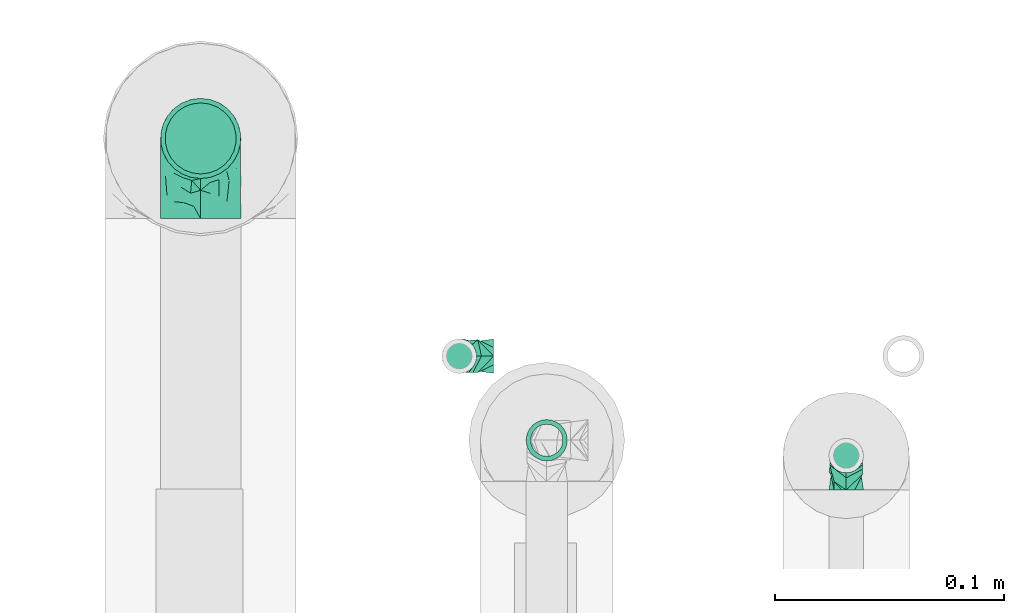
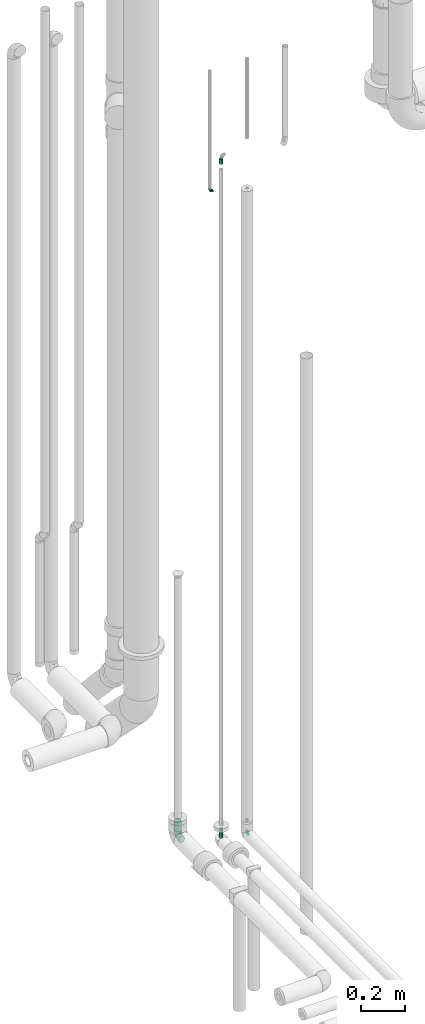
# One storey, part 41 of 78: 4 flow fittings, 3 flow segments.
"""IFC2X3 building model written with IfcOpenShell, lengths in millimetres."""

import ifcopenshell
import ifcopenshell.guid

model = None  # the IFC model being written
_history = None  # IfcOwnerHistory: only IFC2X3 demands one
_inside = {}  # id of a spatial element -> (the spatial element, [elements in it])
_under = {}  # id of a project, library or spatial element -> (it, [spatial elements below it])
_declared = {}  # id of a project -> (the project, [libraries it declares])
_typed = {}  # id of a type object -> (the type object, [elements of that type])
_made_of = {}  # id of a material, layer set ... -> (it, [elements and type objects made of it])


def new_model(schema):
    """Start an empty IFC model of exactly this schema.

    Asked for "IFC4X3", IfcOpenShell would pick the latest addendum, in which some entities
    have other attributes; the version numbers below select the first issue.
    IFC2X3 requires an IfcOwnerHistory on every rooted entity: one is made here for all.
    """
    global model, _history
    if schema == "IFC4X3":
        model = ifcopenshell.file(schema_version=(4, 3, 0, 0))
    else:
        model = ifcopenshell.file(schema=schema)
    _inside.clear()
    _under.clear()
    _declared.clear()
    _typed.clear()
    _made_of.clear()
    _history = None
    if model.schema == "IFC2X3":
        org = make("IfcOrganization", Name="unknown")
        user = make(
            "IfcPersonAndOrganization",
            ThePerson=make("IfcPerson", FamilyName="unknown"),
            TheOrganization=org,
        )
        app = make(
            "IfcApplication",
            ApplicationDeveloper=org,
            Version="unknown",
            ApplicationFullName="unknown",
            ApplicationIdentifier="unknown",
        )
        _history = make(
            "IfcOwnerHistory",
            OwningUser=user,
            OwningApplication=app,
            ChangeAction="ADDED",
            CreationDate=0,
        )
    return model


def make(cls, **values):
    """One entity of the class cls with the attributes given. An attribute that is None is left unset."""
    return model.create_entity(
        cls, **{name: value for name, value in values.items() if value is not None}
    )


def entity(cls, *values):
    """Any entity or typed value of the class cls, its attributes in the order of the schema. None: left unset."""
    e = model.create_entity(cls)
    for i, value in enumerate(values):
        if value is not None:
            e[i] = value
    return e


def rooted(cls, **values):
    """An entity with a GlobalId (a new one), such as an element, a storey or a relation."""
    return make(cls, GlobalId=ifcopenshell.guid.new(), OwnerHistory=_history, **values)


def si_unit(unit_type, name, prefix=None):
    """IfcSIUnit, for example si_unit("LENGTHUNIT", "METRE", prefix="MILLI")."""
    return make("IfcSIUnit", UnitType=unit_type, Prefix=prefix, Name=name)


def converted_unit(unit_type, name, factor, base, dimensions=None, offset=None):
    """IfcConversionBasedUnit, such as the inch: factor (a typed value) times the base unit."""
    return make(
        "IfcConversionBasedUnit"
        if offset is None
        else "IfcConversionBasedUnitWithOffset",
        ConversionOffset=offset,
        Dimensions=None
        if dimensions is None
        else entity("IfcDimensionalExponents", *dimensions),
        UnitType=unit_type,
        Name=name,
        ConversionFactor=make(
            "IfcMeasureWithUnit", ValueComponent=factor, UnitComponent=base
        ),
    )


def derived_unit(unit_type, elements):
    """IfcDerivedUnit: a product of units, each with its exponent."""
    return make(
        "IfcDerivedUnit",
        Elements=[
            make("IfcDerivedUnitElement", Unit=unit, Exponent=power)
            for unit, power in elements
        ],
        UnitType=unit_type,
    )


def assignment(units):
    """IfcUnitAssignment: the units of a project."""
    return None if units is None else make("IfcUnitAssignment", Units=units)


def point(xyz):
    """IfcCartesianPoint."""
    return None if xyz is None else make("IfcCartesianPoint", Coordinates=xyz)


def direction(xyz):
    """IfcDirection."""
    return None if xyz is None else make("IfcDirection", DirectionRatios=xyz)


def frame(location, z_axis=None, x_axis=None):
    """IfcAxis2Placement3D, a coordinate frame: its origin and axes. An axis left out is left unset."""
    return make(
        "IfcAxis2Placement3D",
        Location=point(location),
        Axis=direction(z_axis),
        RefDirection=direction(x_axis),
    )


def frame_2d(location, x_axis=None):
    """IfcAxis2Placement2D, a coordinate frame in the plane: its origin and x axis."""
    return make(
        "IfcAxis2Placement2D", Location=point(location), RefDirection=direction(x_axis)
    )


def origin_with_axes():
    """The frame at (0, 0, 0) with the z axis (0, 0, 1) and the x axis (1, 0, 0) written out."""
    return frame((0.0, 0.0, 0.0), z_axis=(0.0, 0.0, 1.0), x_axis=(1.0, 0.0, 0.0))


def origin_2d_with_axis():
    """The frame at (0, 0) in the plane with the x axis (1, 0) written out."""
    return frame_2d((0.0, 0.0), x_axis=(1.0, 0.0))


def place(relative_to, where):
    """IfcLocalPlacement: puts the frame where relative to a parent placement (None: the world)."""
    return make(
        "IfcLocalPlacement", PlacementRelTo=relative_to, RelativePlacement=where
    )


def context(
    kind, dimensions, precision=None, world=None, true_north=None, identifier=None
):
    """IfcGeometricRepresentationContext, for example the 3D "Model" context."""
    return make(
        "IfcGeometricRepresentationContext",
        ContextIdentifier=identifier,
        ContextType=kind,
        CoordinateSpaceDimension=dimensions,
        Precision=precision,
        WorldCoordinateSystem=world,
        TrueNorth=true_north,
    )


def subcontext(parent, identifier, kind, view, scale=None):
    """IfcGeometricRepresentationSubContext, for example "Body" below "Model"."""
    return make(
        "IfcGeometricRepresentationSubContext",
        ContextIdentifier=identifier,
        ContextType=kind,
        ParentContext=parent,
        TargetScale=scale,
        TargetView=view,
    )


def project(units=None, contexts=None):
    """IfcProject with its units and contexts."""
    return rooted(
        "IfcProject",
        Name="project",
        RepresentationContexts=contexts,
        UnitsInContext=assignment(units),
    )


def spatial(cls, under=None, at=None, **own):
    """A site, building, storey or space (cls), placed at a placement, below another one or the project."""
    s = rooted(cls, ObjectPlacement=at, **own)
    if under is not None:
        _under.setdefault(under.id(), (under, []))[1].append(s)
    return s


def profile(cls, at=None, kind="AREA", **sizes):
    """A parametric profile (cls). Its sizes go by their IFC names, for example OverallWidth=200.0."""
    return make(cls, ProfileType=kind, Position=at, **sizes)


def hollow_circle(**sizes):
    """IfcCircleHollowProfileDef."""
    return profile("IfcCircleHollowProfileDef", **sizes)


def extrude(swept, where, along, depth):
    """IfcExtrudedAreaSolid: the profile swept, set in the frame where, extruded along a direction by depth."""
    return make(
        "IfcExtrudedAreaSolid",
        SweptArea=swept,
        Position=where,
        ExtrudedDirection=direction(along),
        Depth=depth,
    )


def faces_of(points, faces, orient=None, outer=None):
    """IfcFace entities. A face is a list of loops; a loop is a list of indices into points, from 0.

    orient and outer hold one flag for each loop. By default every Orientation is true, the
    first loop of a face is its IfcFaceOuterBound and the others are IfcFaceBound.
    """
    made = []
    for i, loops in enumerate(faces):
        bounds = []
        for j, loop in enumerate(loops):
            is_outer = j == 0 if outer is None else outer[i][j]
            bounds.append(
                make(
                    "IfcFaceOuterBound" if is_outer else "IfcFaceBound",
                    Bound=make("IfcPolyLoop", Polygon=[points[k] for k in loop]),
                    Orientation=True if orient is None else orient[i][j],
                )
            )
        made.append(make("IfcFace", Bounds=bounds))
    return made


def open_shell(faces, orient=None, outer=None):
    """The faces of one IfcOpenShell. surface_model builds it on its shared points."""
    return ("IfcOpenShell", faces, orient, outer)


def surface_model(cls, points, shells):
    """IfcFaceBasedSurfaceModel or IfcShellBasedSurfaceModel (cls): surfaces that need not close."""
    shared = [point(p) for p in points]
    made = [make(c, CfsFaces=faces_of(shared, fs, o, b)) for c, fs, o, b in shells]
    if cls == "IfcFaceBasedSurfaceModel":
        return make(cls, FbsmFaces=made)
    return make(cls, SbsmBoundary=made)


def shape(context_of_items, identifier, shape_type, items):
    """IfcShapeRepresentation: the items that make up one representation, for example the "Body"."""
    return make(
        "IfcShapeRepresentation",
        ContextOfItems=context_of_items,
        RepresentationIdentifier=identifier,
        RepresentationType=shape_type,
        Items=items,
    )


def source(mapping_origin, context_of_items, identifier, shape_type, items):
    """IfcRepresentationMap: a shape defined once, which mapped items show again and again."""
    return make(
        "IfcRepresentationMap",
        MappingOrigin=mapping_origin,
        MappedRepresentation=shape(context_of_items, identifier, shape_type, items),
    )


def transform(
    local_origin,
    x_axis=None,
    y_axis=None,
    z_axis=None,
    scale=None,
    scale2=None,
    scale3=None,
    uniform=True,
):
    """IfcCartesianTransformationOperator3D, or its non-uniform kind. x_axis, y_axis, z_axis: its Axis1, 2, 3."""
    if uniform:
        return make(
            "IfcCartesianTransformationOperator3D",
            Axis1=direction(x_axis),
            Axis2=direction(y_axis),
            LocalOrigin=point(local_origin),
            Scale=scale,
            Axis3=direction(z_axis),
        )
    return make(
        "IfcCartesianTransformationOperator3DnonUniform",
        Axis1=direction(x_axis),
        Axis2=direction(y_axis),
        LocalOrigin=point(local_origin),
        Scale=scale,
        Axis3=direction(z_axis),
        Scale2=scale2,
        Scale3=scale3,
    )


def mapped(mapping_source, mapping_target):
    """IfcMappedItem: shows the shape of a source again, moved by a transform."""
    return make(
        "IfcMappedItem", MappingSource=mapping_source, MappingTarget=mapping_target
    )


def made_of(thing, what):
    """Note that an element or type object is made of a material, layer set ...; save() writes the relation."""
    if what is not None:
        _made_of.setdefault(what.id(), (what, []))[1].append(thing)
    return thing


def type_object(cls, material=None, **own):
    """A type object (cls), such as IfcWallType, which elements share."""
    return made_of(rooted(cls, **own), material)


def element(
    cls,
    number,
    at=None,
    inside=None,
    cuts=None,
    type_object=None,
    material=None,
    context=None,
    identifier="Body",
    shape_type=None,
    held_by="IfcProductDefinitionShape",
    body=None,
    shapes=None,
    **own,
):
    """One element of the class cls, such as IfcWall. Its Tag is "e" and its number.

    at: its placement. inside: the storey or other place that contains it. cuts: it is an
    opening in that element (IfcRelVoidsElement). A single representation is given by context,
    identifier, shape_type and body (its items); several are given by shapes. held_by: the class
    of the entity that holds the representations. save() writes the other relations.
    """
    e = rooted(cls, Tag="e%d" % number, ObjectPlacement=at, **own)
    if body is not None:
        shapes = [shape(context, identifier, shape_type, body)]
    if shapes is not None:
        e.Representation = make(held_by, Representations=shapes)
    if inside is not None:
        _inside.setdefault(inside.id(), (inside, []))[1].append(e)
    if cuts is not None:
        rooted(
            "IfcRelVoidsElement", RelatingBuildingElement=cuts, RelatedOpeningElement=e
        )
    if type_object is not None:
        _typed.setdefault(type_object.id(), (type_object, []))[1].append(e)
    return made_of(e, material)


def aggregate(whole, parts):
    """IfcRelAggregates: a whole, such as a stair, and the parts it consists of."""
    return rooted("IfcRelAggregates", RelatingObject=whole, RelatedObjects=parts)


def save(model, path):
    """Write the relations noted so far, then the file.

    IfcRelAggregates (storeys below a building ...), IfcRelContainedInSpatialStructure (elements
    in a storey), IfcRelDefinesByType, IfcRelAssociatesMaterial and IfcRelDeclares: one each for
    every whole, place, type object, material and project.
    """
    for whole, parts in _under.values():
        aggregate(whole, parts)
    for where, things in _inside.values():
        rooted(
            "IfcRelContainedInSpatialStructure",
            RelatedElements=things,
            RelatingStructure=where,
        )
    for kind, things in _typed.values():
        rooted("IfcRelDefinesByType", RelatedObjects=things, RelatingType=kind)
    for what, things in _made_of.values():
        rooted("IfcRelAssociatesMaterial", RelatedObjects=things, RelatingMaterial=what)
    for by, libraries in _declared.values():
        rooted("IfcRelDeclares", RelatingContext=by, RelatedDefinitions=libraries)
    model.write(path)


model = new_model("IFC2X3")

# Units and contexts
model_context = context("Model", 3, precision=0.01, world=frame((0.0, 4.29681676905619e-09, 0.0)), true_north=direction((4.01073788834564e-13, 1.0)))
plan_context = context("Plan", 3, precision=0.01, world=frame((0.0, 4.29681676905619e-09, 0.0)), true_north=direction((4.01073788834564e-13, 1.0)))
body_context = subcontext(model_context, "Body", "Model", "MODEL_VIEW")
ifc_project = project(units=[converted_unit("PLANEANGLEUNIT", "DEGREE", entity("IfcPositiveLengthMeasure", 0.0174532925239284), si_unit("PLANEANGLEUNIT", "RADIAN"), dimensions=[0, 0, 0, 0, 0, 0, 0]), si_unit("AREAUNIT", "SQUARE_METRE"), si_unit("LENGTHUNIT", "METRE", prefix="MILLI"), si_unit("MASSUNIT", "GRAM", prefix="KILO"), si_unit("POWERUNIT", "WATT"), si_unit("PRESSUREUNIT", "PASCAL"), si_unit("FORCEUNIT", "NEWTON", prefix="KILO"), si_unit("ELECTRICVOLTAGEUNIT", "VOLT"), si_unit("ELECTRICCURRENTUNIT", "AMPERE"), si_unit("THERMODYNAMICTEMPERATUREUNIT", "DEGREE_CELSIUS"), si_unit("TIMEUNIT", "SECOND"), si_unit("VOLUMEUNIT", "CUBIC_METRE"), derived_unit("LINEARVELOCITYUNIT", [(si_unit("LENGTHUNIT", "METRE"), 1), (si_unit("TIMEUNIT", "SECOND"), -1)]), derived_unit("VOLUMETRICFLOWRATEUNIT", [(si_unit("VOLUMEUNIT", "CUBIC_METRE"), 1), (si_unit("TIMEUNIT", "SECOND"), -1)]), derived_unit("THERMALTRANSMITTANCEUNIT", [(si_unit("POWERUNIT", "WATT"), 1), (si_unit("THERMODYNAMICTEMPERATUREUNIT", "KELVIN"), -1), (si_unit("AREAUNIT", "SQUARE_METRE"), -1)]), derived_unit("SOUNDPRESSUREUNIT", [(si_unit("PRESSUREUNIT", "PASCAL"), 1)])], contexts=[model_context, plan_context])

# Site, building, storey
site_placement = place(None, frame((0.0, -4.29681676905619e-09, 0.0), z_axis=(0.0, 0.0, 1.0), x_axis=(1.0, 0.0, 0.0)))
site = spatial("IfcSite", under=ifc_project, at=site_placement, Name="ENGM", CompositionType="ELEMENT")
building_placement = place(site_placement, frame((0.0, 4.29681676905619e-09, 0.0), z_axis=(0.0, 0.0, 1.0), x_axis=(1.0, 0.0, 0.0)))
building = spatial("IfcBuilding", under=site, at=building_placement, Name="TH", CompositionType="ELEMENT")
storey_placement = place(building_placement, frame((0.0, 0.0, 205200.0), z_axis=(0.0, 0.0, 1.0), x_axis=(1.0, 0.0, 0.0)))
storey = spatial("IfcBuildingStorey", under=building, at=storey_placement, Name="Nivå D + 1,2 m", CompositionType="ELEMENT", Elevation=205200.0)

# Flow fittings
pipe_fitting_type_1 = type_object("IfcPipeFittingType", Name="magi_pipe_cu_elbow_short_001", PredefinedType="BEND")
shared_shape_1 = source(origin_with_axes(), body_context, "Body", "SurfaceModel", [
    surface_model("IfcShellBasedSurfaceModel", [(-15.0, 0.0, -7.5), (-15.0, -6.49519, -3.75), (-15.0, 1.94114, -7.24444), (-15.0, 3.75, -6.49519), (-15.0, 5.3033, -5.3033), (-15.0, 7.24444, -1.94114), (-15.0, 6.49519, -3.75), (-15.0, -5.3033, -5.3033), (-15.0, -3.75, -6.49519), (-15.0, -1.94114, -7.24444), (-15.0, -7.24444, -1.94114), (-15.0, -7.5, 0.0), (-15.0, -6.49519, 3.75), (-15.0, 7.24444, 1.94114), (-15.0, 6.49519, 3.75), (-15.0, 3.75, 6.49519), (-15.0, 1.94114, 7.24444), (-15.0, 5.3033, 5.3033), (-15.0, -5.3033, 5.3033), (-15.0, -7.24444, 1.94114), (-15.0, -1.94114, 7.24444), (-15.0, 0.0, 7.5), (-15.0, -3.75, 6.49519), (-15.0, 7.5, 0.0), (-1.94114, 15.0, -7.24444), (6.49519, 15.0, -3.75), (0.0, 15.0, -7.5), (-5.3033, 15.0, -5.3033), (-3.75, 15.0, -6.49519), (-6.49519, 15.0, -3.75), (-7.24444, 15.0, -1.94114), (3.75, 15.0, -6.49519), (5.3033, 15.0, -5.3033), (1.94114, 15.0, -7.24444), (7.5, 15.0, 0.0), (7.24444, 15.0, -1.94114), (-7.5, 15.0, 0.0), (-7.24444, 15.0, 1.94114), (-6.49519, 15.0, 3.75), (-3.75, 15.0, 6.49519), (-1.94114, 15.0, 7.24444), (-5.3033, 15.0, 5.3033), (5.3033, 15.0, 5.3033), (6.49519, 15.0, 3.75), (7.24444, 15.0, 1.94114), (3.75, 15.0, 6.49519), (0.0, 15.0, 7.5), (1.94114, 15.0, 7.24444), (-13.40845, -7.07355, 0.0), (-8.7589, -2.47707, 6.60232), (-8.6338, -5.79418, 0.0), (-3.75, -4.48557, 0.0), (0.36779, -0.36779, 0.0), (2.42668, 1.69111, 0.0), (-2.25176, 0.98822, 6.3797), (-1.69111, -2.42668, 0.0), (-11.8169, -6.64709, 0.0), (-5.9304, 5.9304, 7.17811), (-4.11647, 8.02676, 7.20749), (2.47708, 8.7589, 6.60232), (1.67739, 4.87408, 5.99192), (4.48557, 3.75, 0.0), (-4.78013, -1.73268, 5.91836), (7.07355, 13.40845, 0.0), (6.64709, 11.8169, 0.0), (-8.02675, 4.11647, 7.20749), (-8.59835, 12.34835, 0.0), (-12.34835, 8.59835, 0.0), (-9.6967, 9.6967, 0.0), (5.79418, 8.6338, 0.0), (-8.7589, -2.47707, -6.60232), (-4.11647, 8.02676, -7.20749), (0.71542, 3.43733, -5.99192), (-2.23993, 1.78364, -6.69976), (2.47708, 8.7589, -6.60232), (-11.39207, 6.08032, -5.22727), (-7.08629, 1.82323, -7.49084), (-8.19523, 6.76007, -6.13545)], [open_shell([[[0, 1, 2]], [[3, 2, 4]], [[5, 6, 4]], [[4, 2, 1]], [[5, 4, 1]], [[7, 1, 8]], [[9, 8, 1]], [[10, 11, 1]], [[0, 9, 1]], [[11, 12, 1]], [[12, 5, 1]], [[13, 5, 12]], [[14, 13, 15]], [[13, 16, 15]], [[17, 14, 15]], [[16, 13, 12]], [[12, 18, 16]], [[12, 11, 19]], [[20, 21, 22]], [[18, 22, 21]], [[16, 18, 21]], [[13, 23, 5]], [[24, 25, 26]], [[27, 24, 28]], [[27, 29, 30]], [[25, 24, 27]], [[25, 27, 30]], [[31, 25, 32]], [[25, 31, 33]], [[25, 34, 35]], [[25, 33, 26]], [[30, 34, 25]], [[30, 36, 34]], [[36, 37, 38]], [[36, 38, 39]], [[40, 34, 39]], [[39, 38, 41]], [[40, 42, 34]], [[42, 43, 34]], [[44, 34, 43]], [[45, 46, 47]], [[45, 42, 40]], [[45, 40, 46]], [[39, 34, 36]], [[19, 48, 12]], [[49, 50, 51]], [[52, 53, 54]], [[54, 55, 52]], [[22, 18, 56]], [[12, 56, 18]], [[57, 54, 58]], [[22, 50, 20]], [[21, 20, 50]], [[59, 60, 61]], [[59, 58, 60]], [[55, 54, 62]], [[21, 50, 49]], [[21, 49, 16]], [[62, 49, 51]], [[62, 51, 55]], [[43, 63, 44]], [[49, 15, 16]], [[64, 63, 43]], [[13, 65, 23]], [[14, 17, 49]], [[54, 65, 62]], [[15, 49, 17]], [[57, 58, 66]], [[67, 57, 68]], [[53, 60, 54]], [[47, 46, 69]], [[69, 45, 47]], [[41, 59, 39]], [[40, 59, 46]], [[42, 45, 64]], [[54, 60, 58]], [[64, 45, 69]], [[61, 60, 53]], [[44, 63, 34]], [[59, 61, 69]], [[58, 36, 66]], [[22, 56, 50]], [[54, 57, 65]], [[49, 65, 14]], [[37, 36, 58]], [[64, 43, 42]], [[38, 37, 58]], [[14, 65, 13]], [[41, 38, 59]], [[19, 11, 48]], [[38, 58, 59]], [[48, 56, 12]], [[39, 59, 40]], [[59, 69, 46]], [[49, 62, 65]], [[57, 67, 65]], [[66, 68, 57]], [[67, 23, 65]], [[70, 50, 0]], [[71, 72, 73]], [[74, 71, 29]], [[70, 2, 3]], [[70, 51, 50]], [[35, 34, 63]], [[75, 4, 6]], [[75, 5, 23]], [[6, 5, 75]], [[51, 76, 55]], [[75, 23, 67]], [[70, 4, 75]], [[48, 11, 10]], [[8, 56, 7]], [[0, 50, 9]], [[51, 70, 76]], [[56, 8, 50]], [[8, 9, 50]], [[70, 0, 2]], [[66, 36, 71]], [[52, 72, 53]], [[4, 70, 3]], [[70, 75, 76]], [[73, 52, 55]], [[71, 68, 66]], [[61, 53, 72]], [[31, 64, 69]], [[30, 71, 36]], [[27, 74, 29]], [[56, 1, 7]], [[28, 24, 74]], [[63, 64, 25]], [[56, 48, 1]], [[28, 74, 27]], [[1, 48, 10]], [[26, 74, 24]], [[33, 69, 26]], [[29, 71, 30]], [[32, 64, 31]], [[69, 33, 31]], [[68, 71, 77]], [[74, 26, 69]], [[25, 35, 63]], [[61, 72, 74]], [[61, 74, 69]], [[67, 77, 75]], [[74, 72, 71]], [[25, 64, 32]], [[76, 77, 73]], [[75, 77, 76]], [[77, 71, 73]], [[55, 76, 73]], [[72, 52, 73]], [[77, 67, 68]]])]),
])
for number, where, z_axis, x_axis, name in (
    (1, (895482.33366, 478585.9125, 8030.0), (0.0, -1.0, 0.0), (0.0, 0.0, -1.0), "magi_pipe_cu_elbow_short_001"),
    (2, (895651.15, 478542.5375, 4450.0), (1.0, 0.0, 0.0), (0.0, 1.0, 0.0), "magi_pipe_cu_elbow_short_001"),
):
    element("IfcFlowFitting", number, at=place(storey_placement, frame(where, z_axis=z_axis, x_axis=x_axis)), inside=storey, type_object=pipe_fitting_type_1, Name=name, context=body_context, shape_type="MappedRepresentation", body=[
        mapped(shared_shape_1, transform((0.0, 0.0, 0.0), scale=1.0)),
    ])
shared_shape_2 = source(origin_with_axes(), body_context, "Body", "SurfaceModel", [
    surface_model("IfcShellBasedSurfaceModel", [(-35.0, 8.75, -15.15544), (-35.0, 4.52933, -16.9037), (-35.0, 0.0, -17.5), (-35.0, 12.37437, -12.37437), (-35.0, 15.15544, -8.75), (-35.0, -8.75, -15.15544), (-35.0, -8.75, 15.15544), (-35.0, -12.37437, -12.37437), (-35.0, -4.52933, -16.9037), (-35.0, -16.9037, -4.52933), (-35.0, -17.5, 0.0), (-35.0, -15.15544, -8.75), (-35.0, -16.9037, 4.52933), (-35.0, 17.5, 0.0), (-35.0, 16.9037, -4.52933), (-35.0, 12.37437, 12.37437), (-35.0, 16.9037, 4.52933), (-35.0, 15.15544, 8.75), (-35.0, 4.52933, 16.9037), (-35.0, 8.75, 15.15544), (-35.0, 0.0, 17.5), (-35.0, -15.15544, 8.75), (-35.0, -12.37437, 12.37437), (-35.0, -4.52933, 16.9037), (0.0, 35.0, -17.5), (-4.52933, 35.0, -16.9037), (-8.75, 35.0, -15.15544), (-12.37437, 35.0, -12.37437), (8.75, 35.0, -15.15544), (16.9037, 35.0, 4.52933), (-15.15544, 35.0, -8.75), (8.75, 35.0, 15.15544), (12.37437, 35.0, -12.37437), (4.52933, 35.0, -16.9037), (15.15544, 35.0, -8.75), (17.5, 35.0, 0.0), (16.9037, 35.0, -4.52933), (-16.9037, 35.0, -4.52933), (-17.5, 35.0, 0.0), (-16.9037, 35.0, 4.52933), (-12.37437, 35.0, 12.37437), (-15.15544, 35.0, 8.75), (-8.75, 35.0, 15.15544), (-4.52933, 35.0, 16.9037), (0.0, 35.0, 17.5), (12.37437, 35.0, 12.37437), (15.15544, 35.0, 8.75), (4.52933, 35.0, 16.9037), (-25.67415, -13.59559, 9.82403), (-22.98078, -10.09634, 13.04024), (-24.95456, -15.50184, 0.0), (-15.46973, -11.14466, 8.83253), (-23.25837, -15.27419, 5.4579), (15.27419, 23.25837, 5.4579), (12.34847, 13.7089, 4.48617), (13.50368, 14.90912, 0.0), (7.98773, 14.17445, 11.96929), (10.09634, 22.98078, 13.04024), (4.24731, 13.52067, 14.53865), (-25.72197, -6.61751, 15.74462), (-26.7344, -2.31827, 17.20071), (-24.50568, 2.68251, 17.47017), (-27.44516, 14.56448, 11.47495), (-25.07215, 18.29076, 8.00088), (-30.6355, 16.43299, 7.25145), (-6.39301, -7.81339, 0.0), (-13.7089, -12.34847, 4.48617), (-14.90912, -13.50368, 0.0), (-18.44681, 19.54381, 12.39604), (-6.53243, 30.18634, 16.39188), (-2.39845, 26.17753, 17.45702), (-30.27731, 10.5977, 14.25942), (-1.50603, -2.9583, 7.8851), (-0.29331, 0.3611, 10.4535), (-5.9488, -4.19077, 10.78186), (-4.56799, 11.72104, 17.18321), (-8.69539, 3.21041, 16.34147), (-1.78778, 9.45477, 16.08229), (-18.0168, 25.63227, 7.92136), (-27.12223, 20.76308, 0.0), (-29.14442, 17.91065, 4.40976), (-26.97638, 6.86342, 16.53125), (-6.08206, 17.20948, 17.4686), (-12.9625, 12.9625, 17.07479), (-10.42039, 7.64736, 17.40986), (-3.126, 3.126, 14.30773), (-13.52067, -4.24732, 14.53865), (-17.42289, -0.15705, 16.96193), (11.14466, 15.46973, 8.83253), (13.59559, 25.67415, 9.82403), (6.61751, 25.72197, 15.74462), (2.31827, 26.7344, 17.20071), (-14.17445, -7.98773, 11.96929), (15.50184, 24.95456, 0.0), (-7.56843, 23.71293, 16.6663), (-11.05874, 27.1034, 14.50532), (-13.23678, 18.91785, 15.59535), (-14.3786, 23.24943, 13.39158), (-18.69025, 15.70341, 14.54296), (-23.93728, 20.79474, 4.17293), (-22.62563, 22.62563, 0.0), (-19.21704, 26.38748, 4.0702), (-14.44673, 27.90403, 11.42459), (-19.23031, 7.49607, 17.18683), (-17.1721, 4.28825, 17.49253), (-18.60453, 11.87421, 16.18647), (-10.19404, 18.16587, 16.76415), (0.15705, 17.42289, 16.96193), (-24.0983, 11.8793, 14.7368), (3.98505, 6.07834, 11.08478), (-8.30597, -7.81197, 8.21438), (1.03907, -2.27302, 4.73653), (5.31423, 3.11691, 6.11155), (5.42771, 1.81659, 2.62257), (9.0136, 7.29975, 4.13354), (-20.76308, 27.12223, 0.0), (8.78644, 9.07824, 7.34478), (-4.71659, -6.95924, 5.08102), (2.12311, -2.12311, 0.0), (7.81339, 6.39301, 0.0), (-27.70384, 2.21276, -17.44304), (-15.139, 25.6163, -11.67774), (-29.4629, -13.93098, -10.16755), (-26.92794, 6.87113, -16.53331), (-23.88622, 20.75741, -4.41333), (-14.29664, -4.41648, -14.68212), (-15.19601, -0.21829, -16.64455), (-7.03127, -0.29284, -14.33943), (-25.40695, 11.47437, -14.63597), (-27.66913, 14.50571, -11.45035), (10.45516, 25.31793, -13.21276), (6.03943, 22.16202, -15.56409), (6.89903, 29.55572, -15.927), (-21.10543, 16.03689, -13.19848), (12.97763, 21.9883, -9.47862), (12.99032, 16.23155, -5.74578), (10.09843, 13.35052, -8.97101), (-16.20755, 20.33949, -13.47528), (-12.46256, 21.39865, -15.19771), (-16.17359, 16.17359, -15.36562), (-26.47317, -15.80391, 0.0), (-25.52983, -15.66647, -5.70515), (13.93098, 29.4629, -10.16755), (15.66647, 25.52983, -5.70515), (-7.61553, -8.60518, -5.85642), (-16.23155, -12.99032, -5.74578), (-25.31793, -10.45516, -13.21276), (0.17109, 0.42769, -10.06227), (-5.90918, -5.51991, -9.20861), (-5.32113, -2.45619, -11.9452), (-21.9883, -12.97763, -9.47862), (0.73672, 8.22048, -14.5942), (0.21829, 15.19601, -16.64455), (3.61692, 14.93995, -15.28797), (-25.7831, -2.20653, -17.18003), (-29.55572, -6.89903, -15.927), (-19.09867, -7.99059, -13.74068), (2.20653, 25.7831, -17.18003), (-29.66035, 18.06344, -2.9959), (1.76053, -1.33292, -5.27593), (-17.15897, 27.77164, -7.62747), (-18.31862, 28.40001, -3.89769), (-13.35052, -10.09843, -8.97101), (-6.17792, 6.17792, -16.5247), (-21.26622, 20.80683, -8.58416), (-2.21276, 27.70384, -17.44304), (-7.14365, 25.46075, -16.59474), (-10.98399, 27.47352, -14.47678), (-22.16202, -6.03943, -15.56409), (3.03601, 6.10561, -11.96956), (7.13869, 13.06641, -12.24206), (5.77868, 6.1646, -9.10678), (-4.13696, 19.27897, -17.49622), (8.60518, 7.61553, -5.85642), (-9.46274, 10.21159, -17.49007), (-10.35485, 16.58999, -16.97913), (-17.27815, 10.12754, -16.92218), (-27.97841, 17.20134, -7.38292), (15.80391, 26.47317, 0.0), (-19.27898, 4.13695, -17.49622), (-20.06282, 28.81281, 0.0), (-13.06641, -7.13869, -12.24206), (-19.51618, 19.81971, -11.35476)], [open_shell([[[0, 1, 2]], [[3, 0, 2]], [[4, 3, 5]], [[2, 5, 3]], [[6, 4, 5]], [[7, 6, 5]], [[2, 8, 5]], [[9, 10, 11]], [[11, 10, 12]], [[11, 12, 7]], [[13, 14, 4]], [[4, 15, 16]], [[17, 16, 15]], [[18, 19, 15]], [[4, 6, 15]], [[15, 20, 18]], [[21, 22, 12]], [[6, 12, 22]], [[23, 20, 6]], [[6, 7, 12]], [[6, 20, 15]], [[13, 4, 16]], [[24, 25, 26]], [[24, 26, 27]], [[28, 24, 29]], [[30, 24, 27]], [[31, 24, 30]], [[28, 29, 32]], [[28, 33, 24]], [[34, 35, 36]], [[29, 35, 34]], [[32, 29, 34]], [[30, 37, 38]], [[30, 39, 40]], [[40, 39, 41]], [[40, 42, 43]], [[40, 31, 30]], [[44, 40, 43]], [[29, 45, 46]], [[45, 29, 31]], [[31, 44, 47]], [[29, 24, 31]], [[40, 44, 31]], [[38, 39, 30]], [[22, 48, 49]], [[12, 10, 50]], [[51, 48, 52]], [[53, 54, 55]], [[48, 22, 21]], [[12, 52, 21]], [[56, 57, 58]], [[49, 6, 22]], [[49, 59, 6]], [[20, 60, 61]], [[62, 63, 64]], [[65, 66, 67]], [[57, 45, 31]], [[62, 68, 63]], [[43, 69, 70]], [[19, 71, 15]], [[23, 60, 20]], [[72, 73, 74]], [[75, 76, 77]], [[15, 62, 17]], [[41, 39, 78]], [[79, 13, 80]], [[64, 16, 17]], [[20, 61, 18]], [[18, 81, 19]], [[82, 83, 84]], [[74, 85, 86]], [[59, 86, 87]], [[88, 89, 57]], [[90, 31, 47]], [[46, 53, 29]], [[47, 44, 91]], [[54, 53, 88]], [[46, 89, 53]], [[92, 86, 49]], [[89, 46, 45]], [[6, 59, 23]], [[53, 55, 93]], [[93, 29, 53]], [[66, 52, 67]], [[94, 82, 70]], [[95, 96, 94]], [[97, 98, 96]], [[79, 99, 100]], [[42, 40, 95]], [[101, 100, 99]], [[68, 78, 63]], [[43, 42, 69]], [[13, 16, 80]], [[95, 94, 69]], [[78, 101, 99]], [[40, 102, 95]], [[70, 44, 43]], [[97, 95, 102]], [[12, 50, 52]], [[90, 57, 31]], [[57, 90, 58]], [[81, 18, 61]], [[103, 104, 84]], [[105, 81, 103]], [[40, 41, 102]], [[94, 96, 106]], [[94, 106, 82]], [[91, 70, 107]], [[71, 62, 15]], [[62, 108, 98]], [[86, 59, 49]], [[67, 52, 50]], [[60, 59, 87]], [[92, 49, 51]], [[86, 85, 76]], [[91, 90, 47]], [[35, 29, 93]], [[107, 77, 58]], [[107, 58, 90]], [[58, 85, 109]], [[110, 74, 92]], [[72, 74, 110]], [[66, 51, 52]], [[72, 111, 112]], [[113, 114, 112]], [[56, 88, 57]], [[52, 48, 21]], [[49, 48, 51]], [[57, 89, 45]], [[53, 89, 88]], [[103, 81, 61]], [[71, 81, 108]], [[16, 64, 80]], [[63, 78, 99]], [[38, 115, 101]], [[101, 115, 100]], [[41, 78, 102]], [[68, 102, 78]], [[97, 96, 95]], [[105, 98, 108]], [[103, 84, 83]], [[107, 70, 82]], [[76, 84, 87]], [[82, 84, 75]], [[70, 91, 44]], [[90, 91, 107]], [[59, 60, 23]], [[61, 60, 87]], [[73, 85, 74]], [[109, 112, 116]], [[103, 61, 104]], [[105, 103, 83]], [[96, 105, 83]], [[81, 105, 108]], [[96, 98, 105]], [[62, 98, 68]], [[61, 87, 104]], [[87, 84, 104]], [[86, 76, 87]], [[77, 76, 85]], [[58, 77, 85]], [[75, 77, 107]], [[82, 75, 107]], [[76, 75, 84]], [[81, 71, 19]], [[62, 71, 108]], [[95, 69, 42]], [[70, 69, 94]], [[62, 64, 17]], [[80, 63, 99]], [[63, 80, 64]], [[80, 99, 79]], [[66, 65, 117]], [[110, 66, 117]], [[112, 114, 116]], [[118, 117, 65]], [[110, 92, 51]], [[112, 111, 113]], [[119, 55, 54]], [[74, 86, 92]], [[58, 109, 56]], [[116, 56, 109]], [[66, 110, 51]], [[72, 110, 117]], [[111, 72, 117]], [[73, 112, 109]], [[117, 118, 111]], [[113, 111, 118]], [[118, 119, 113]], [[114, 119, 54]], [[119, 114, 113]], [[116, 54, 88]], [[54, 116, 114]], [[116, 88, 56]], [[112, 73, 72]], [[85, 73, 109]], [[78, 39, 101]], [[38, 101, 39]], [[102, 68, 97]], [[97, 68, 98]], [[96, 83, 106]], [[82, 106, 83]], [[1, 120, 2]], [[30, 27, 121]], [[7, 122, 11]], [[0, 123, 1]], [[100, 124, 79]], [[125, 126, 127]], [[128, 3, 129]], [[130, 131, 132]], [[128, 129, 133]], [[134, 135, 136]], [[137, 138, 139]], [[128, 0, 3]], [[67, 140, 141]], [[134, 142, 143]], [[141, 9, 11]], [[144, 65, 145]], [[146, 7, 5]], [[147, 148, 149]], [[145, 141, 150]], [[151, 152, 153]], [[154, 8, 2]], [[5, 155, 146]], [[150, 146, 156]], [[155, 5, 8]], [[143, 135, 134]], [[33, 157, 24]], [[13, 79, 158]], [[148, 159, 144]], [[160, 161, 37]], [[145, 162, 144]], [[163, 152, 151]], [[37, 30, 160]], [[121, 164, 160]], [[28, 32, 130]], [[24, 165, 25]], [[25, 165, 166]], [[142, 32, 34]], [[27, 26, 167]], [[124, 161, 164]], [[157, 33, 132]], [[155, 154, 168]], [[123, 0, 128]], [[169, 170, 171]], [[172, 157, 152]], [[25, 166, 26]], [[132, 33, 28]], [[142, 130, 32]], [[168, 154, 126]], [[136, 135, 173]], [[133, 137, 139]], [[3, 4, 129]], [[170, 131, 130]], [[34, 36, 143]], [[172, 174, 175]], [[176, 123, 128]], [[158, 177, 14]], [[135, 55, 119]], [[167, 26, 166]], [[175, 166, 172]], [[137, 167, 138]], [[122, 141, 11]], [[140, 10, 9]], [[36, 35, 178]], [[170, 130, 134]], [[152, 157, 131]], [[165, 157, 172]], [[153, 170, 151]], [[152, 163, 174]], [[168, 125, 156]], [[122, 146, 150]], [[120, 154, 2]], [[179, 174, 126]], [[179, 126, 154]], [[126, 163, 127]], [[162, 145, 150]], [[140, 9, 141]], [[36, 178, 143]], [[55, 143, 178]], [[177, 129, 4]], [[128, 133, 139]], [[176, 128, 139]], [[120, 123, 179]], [[121, 160, 30]], [[161, 100, 180]], [[166, 175, 138]], [[121, 27, 167]], [[161, 38, 37]], [[79, 124, 158]], [[124, 164, 177]], [[161, 124, 100]], [[136, 171, 170]], [[127, 163, 151]], [[147, 171, 159]], [[148, 144, 162]], [[127, 151, 169]], [[127, 181, 125]], [[129, 177, 164]], [[4, 14, 177]], [[159, 65, 144]], [[67, 141, 145]], [[143, 55, 135]], [[135, 119, 173]], [[123, 120, 1]], [[154, 120, 179]], [[157, 165, 24]], [[166, 165, 172]], [[172, 152, 174]], [[176, 139, 175]], [[126, 174, 163]], [[176, 174, 179]], [[174, 176, 175]], [[123, 176, 179]], [[150, 181, 162]], [[127, 149, 181]], [[181, 148, 162]], [[159, 148, 147]], [[171, 136, 173]], [[170, 134, 136]], [[159, 171, 173]], [[171, 147, 169]], [[169, 147, 149]], [[151, 170, 169]], [[164, 182, 129]], [[182, 121, 137]], [[181, 149, 148]], [[169, 149, 127]], [[182, 137, 133]], [[167, 137, 121]], [[166, 138, 167]], [[175, 139, 138]], [[129, 182, 133]], [[121, 182, 164]], [[161, 160, 164]], [[38, 161, 180]], [[177, 158, 124]], [[13, 158, 14]], [[130, 132, 28]], [[157, 132, 131]], [[143, 142, 34]], [[130, 142, 134]], [[154, 155, 8]], [[146, 155, 168]], [[146, 122, 7]], [[141, 122, 150]], [[152, 131, 153]], [[159, 119, 118]], [[67, 145, 65]], [[170, 153, 131]], [[119, 159, 173]], [[159, 118, 65]], [[156, 125, 181]], [[126, 125, 168]], [[150, 156, 181]], [[168, 156, 146]]])]),
])
flow_fitting_1_placement = place(storey_placement, frame((895369.5, 478680.9125, 4450.0), z_axis=(1.0, 0.0, 0.0), x_axis=(0.0, 1.0, 0.0)))
element("IfcFlowFitting", 3, at=flow_fitting_1_placement, inside=storey, type_object=pipe_fitting_type_1, Name="magi_pipe_cu_elbow_short_001", context=body_context, shape_type="MappedRepresentation", body=[
    mapped(shared_shape_2, transform((0.0, 0.0, 0.0), scale=1.0)),
])
pipe_fitting_type_2 = type_object("IfcPipeFittingType", Name="magi_pipe_cu_joint_001", PredefinedType="CONNECTOR")
shared_shape_3 = source(origin_with_axes(), body_context, "Body", "SurfaceModel", [
    surface_model("IfcShellBasedSurfaceModel", [(10.0, 0.0, -7.5), (10.0, 1.94114, -7.24444), (10.0, 3.75, -6.49519), (10.0, -7.24444, 1.94114), (10.0, -7.5, 0.0), (10.0, 6.49519, -3.75), (10.0, 5.3033, -5.3033), (10.0, 6.49519, 3.75), (10.0, -5.3033, -5.3033), (10.0, -3.75, -6.49519), (10.0, -1.94114, -7.24444), (10.0, -7.24444, -1.94114), (10.0, -6.49519, -3.75), (10.0, 7.24444, -1.94114), (10.0, 7.5, 0.0), (10.0, 7.24444, 1.94114), (10.0, 3.75, 6.49519), (10.0, 5.3033, 5.3033), (10.0, 0.0, 7.5), (10.0, 1.94114, 7.24444), (10.0, -5.3033, 5.3033), (10.0, -6.49519, 3.75), (10.0, -3.75, 6.49519), (10.0, -1.94114, 7.24444), (0.0, 3.75, -6.49519), (0.0, 1.94114, -7.24444), (0.0, 0.0, -7.5), (0.0, -7.5, 0.0), (0.0, 6.49519, -3.75), (0.0, 5.3033, -5.3033), (0.0, 3.75, 6.49519), (0.0, -5.3033, -5.3033), (0.0, -3.75, -6.49519), (0.0, -1.94114, -7.24444), (0.0, -6.49519, -3.75), (0.0, -7.24444, -1.94114), (0.0, 7.5, 0.0), (0.0, 7.24444, -1.94114), (0.0, 6.49519, 3.75), (0.0, 7.24444, 1.94114), (0.0, -7.24444, 1.94114), (0.0, 5.3033, 5.3033), (0.0, 0.0, 7.5), (0.0, 1.94114, 7.24444), (0.0, -6.49519, 3.75), (0.0, -5.3033, 5.3033), (0.0, -3.75, 6.49519), (0.0, -1.94114, 7.24444)], [open_shell([[[0, 1, 2]], [[3, 4, 0]], [[2, 3, 0]], [[5, 2, 6]], [[5, 7, 2]], [[0, 8, 9]], [[9, 10, 0]], [[8, 11, 12]], [[11, 8, 4]], [[4, 8, 0]], [[5, 13, 14]], [[14, 15, 7]], [[7, 16, 2]], [[2, 16, 3]], [[16, 7, 17]], [[18, 16, 19]], [[3, 20, 21]], [[20, 3, 18]], [[22, 18, 23]], [[18, 22, 20]], [[3, 16, 18]], [[7, 5, 14]], [[24, 25, 26]], [[24, 26, 27]], [[28, 24, 27]], [[29, 24, 28]], [[28, 27, 30]], [[31, 27, 32]], [[26, 33, 32]], [[34, 35, 31]], [[27, 31, 35]], [[32, 27, 26]], [[36, 37, 28]], [[38, 39, 36]], [[28, 30, 38]], [[27, 40, 30]], [[41, 38, 30]], [[30, 42, 43]], [[44, 45, 40]], [[42, 40, 45]], [[46, 47, 45]], [[42, 45, 47]], [[42, 30, 40]], [[36, 28, 38]], [[3, 27, 4]], [[21, 40, 3]], [[45, 20, 22]], [[21, 20, 44]], [[46, 22, 23]], [[21, 44, 40]], [[40, 27, 3]], [[47, 18, 42]], [[47, 46, 23]], [[45, 22, 46]], [[45, 44, 20]], [[18, 47, 23]], [[16, 43, 19]], [[17, 30, 16]], [[38, 7, 15]], [[17, 7, 41]], [[39, 15, 14]], [[16, 30, 43]], [[43, 42, 19]], [[39, 38, 15]], [[41, 7, 38]], [[41, 30, 17]], [[36, 39, 14]], [[19, 42, 18]], [[13, 36, 14]], [[5, 37, 13]], [[29, 6, 2]], [[5, 6, 28]], [[24, 2, 1]], [[5, 28, 37]], [[37, 36, 13]], [[25, 0, 26]], [[25, 24, 1]], [[29, 2, 24]], [[29, 28, 6]], [[0, 25, 1]], [[9, 33, 10]], [[8, 32, 9]], [[34, 12, 11]], [[8, 12, 31]], [[35, 11, 4]], [[9, 32, 33]], [[33, 26, 10]], [[35, 34, 11]], [[31, 12, 34]], [[31, 32, 8]], [[27, 35, 4]], [[10, 26, 0]]])]),
])
flow_fitting_2_placement = place(storey_placement, frame((895651.15, 478542.5375, 4527.13214999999), z_axis=(1.0, 0.0, 0.0), x_axis=(0.0, 3.999999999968e-06, -0.999999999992)))
element("IfcFlowFitting", 4, at=flow_fitting_2_placement, inside=storey, type_object=pipe_fitting_type_2, Name="magi_pipe_cu_joint_001", context=body_context, shape_type="MappedRepresentation", body=[
    mapped(shared_shape_3, transform((0.0, 0.0, 0.0), scale=1.0)),
])

# Flow segments
pipe_segment_type = type_object("IfcPipeSegmentType", Name="Kobberrør", PredefinedType="RIGIDSEGMENT")
shared_shape_4 = source(origin_with_axes(), body_context, "Body", "SweptSolid", [
    extrude(hollow_circle(Radius=9.0, WallThickness=2.0, at=origin_2d_with_axis()), frame((0.0, 0.0, 0.0), z_axis=(1.0, 0.0, 0.0), x_axis=(0.0, 1.0, 0.0)), (0.0, 0.0, 1.0), 28.8),
])
flow_segment_1_placement = place(storey_placement, frame((895520.48466, 478549.2375, 8193.15807999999), z_axis=(1.0, 0.0, 0.0), x_axis=(0.0, 0.0, 1.0)))
element("IfcFlowSegment", 5, at=flow_segment_1_placement, inside=storey, type_object=pipe_segment_type, Name="Kobberrør", context=body_context, shape_type="MappedRepresentation", body=[
    mapped(shared_shape_4, transform((0.0, 0.0, 0.0), scale=1.0)),
])
shared_shape_5 = source(origin_with_axes(), body_context, "Body", "SweptSolid", [
    extrude(hollow_circle(Radius=17.5, WallThickness=2.0, at=origin_2d_with_axis()), frame((0.0, 0.0, 0.0), z_axis=(1.0, 0.0, 0.0), x_axis=(0.0, 1.0, 0.0)), (0.0, 0.0, 1.0), 50.0),
])
flow_segment_2_placement = place(storey_placement, frame((895369.5, 478680.9125, 4485.0), z_axis=(-1.0, 0.0, 0.0), x_axis=(0.0, 0.0, 1.0)))
element("IfcFlowSegment", 6, at=flow_segment_2_placement, inside=storey, type_object=pipe_segment_type, Name="Kobberrør", context=body_context, shape_type="MappedRepresentation", body=[
    mapped(shared_shape_5, transform((0.0, 0.0, 0.0), scale=1.0)),
])
shared_shape_6 = source(origin_with_axes(), body_context, "Body", "SweptSolid", [
    extrude(hollow_circle(Radius=9.0, WallThickness=2.0, at=origin_2d_with_axis()), frame((0.0, 0.0, 0.0), z_axis=(1.0, 0.0, 0.0), x_axis=(0.0, 1.0, 0.0)), (0.0, 0.0, 1.0), 50.0),
])
flow_segment_3_placement = place(storey_placement, frame((895520.48466, 478549.2375, 4518.0), z_axis=(-1.0, 0.0, 0.0), x_axis=(0.0, 3.999999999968e-06, -0.999999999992)))
element("IfcFlowSegment", 7, at=flow_segment_3_placement, inside=storey, type_object=pipe_segment_type, Name="Kobberrør", context=body_context, shape_type="MappedRepresentation", body=[
    mapped(shared_shape_6, transform((0.0, 0.0, 0.0), scale=1.0)),
])

save(model, "model.ifc")
